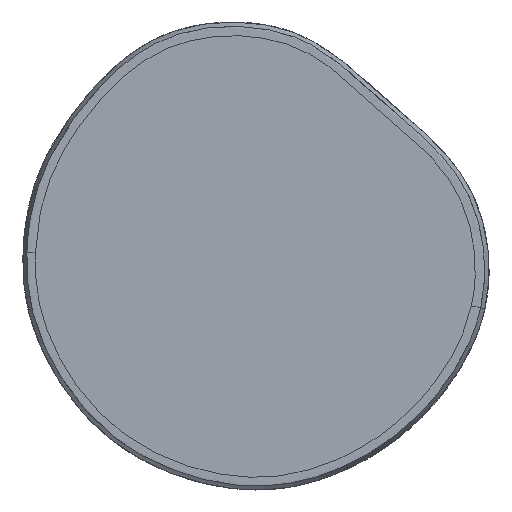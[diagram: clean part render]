
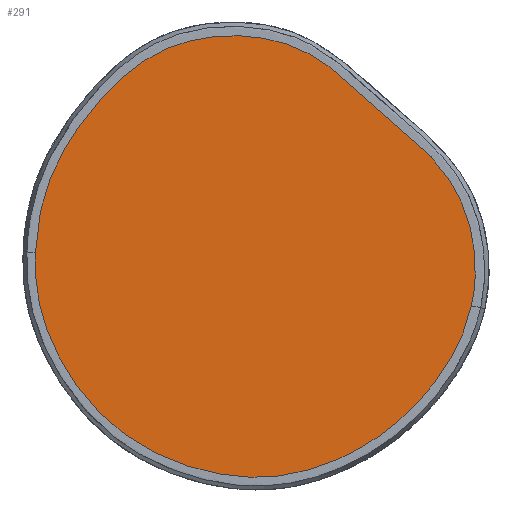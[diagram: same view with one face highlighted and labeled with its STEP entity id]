
A CAD part, top view. The second image highlights one B-rep face of the part: STEP entity #291.
In plain terms, the highlighted planar face has unit normal (0, 0, 1).
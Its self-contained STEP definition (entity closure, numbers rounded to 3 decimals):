
#291=ADVANCED_FACE('',(#2531),#36188,.T.);
#2531=FACE_OUTER_BOUND('',#4771,.T.);
#4771=EDGE_LOOP('',(#7164,#7165));
#7164=ORIENTED_EDGE('',*,*,#19176,.F.);
#7165=ORIENTED_EDGE('',*,*,#18966,.F.);
#18966=EDGE_CURVE('',#30801,#30937,#29508,.T.);
#19176=EDGE_CURVE('',#30937,#30801,#29530,.T.);
#29508=(
BOUNDED_CURVE()
B_SPLINE_CURVE(3,(#44276,#44277,#44278,#44279,#44280,#44281,#44282,#44283,
#44284,#44285,#44286,#44287,#44288,#44289,#44290,#44291,#44292,#44293,#44294,
#44295,#44296,#44297),.UNSPECIFIED.,.F.,.F.)
B_SPLINE_CURVE_WITH_KNOTS((4,3,3,3,3,3,3,4),(-2156.742,-1990.839,
-1824.936,-1659.032,-1493.129,-1327.226,
-1161.323,-995.419),.UNSPECIFIED.)
CURVE()
GEOMETRIC_REPRESENTATION_ITEM()
RATIONAL_B_SPLINE_CURVE((1.,1.,1.,1.,1.,1.,1.,1.,1.,1.,1.,1.,1.,1.,1.,1.,
1.,1.,1.,1.,1.,1.))
REPRESENTATION_ITEM('')
);
#29530=(
BOUNDED_CURVE()
B_SPLINE_CURVE(3,(#45961,#45962,#45963,#45964,#45965,#45966,#45967,#45968,
#45969,#45970,#45971,#45972,#45973,#45974,#45975,#45976,#45977,#45978,#45979),
 .UNSPECIFIED.,.F.,.F.)
B_SPLINE_CURVE_WITH_KNOTS((4,3,3,3,3,3,4),(-995.419,-829.516,
-663.613,-497.71,-331.806,-165.903,0.),
 .UNSPECIFIED.)
CURVE()
GEOMETRIC_REPRESENTATION_ITEM()
RATIONAL_B_SPLINE_CURVE((1.,1.,1.,1.,1.,1.,1.,1.,1.,1.,1.,1.,1.,1.,1.,1.,
1.,1.,1.))
REPRESENTATION_ITEM('')
);
#30801=VERTEX_POINT('',#44015);
#30937=VERTEX_POINT('',#44151);
#36188=PLANE('',#37000);
#37000=AXIS2_PLACEMENT_3D('',#40962,#38838,$);
#38838=DIRECTION('',(0.,0.,1.));
#40962=CARTESIAN_POINT('',(-1829.609,233.518,32.));
#44015=CARTESIAN_POINT('',(-1582.34,248.384,32.));
#44151=CARTESIAN_POINT('',(-522.343,118.412,32.));
#44276=CARTESIAN_POINT('',(-1582.34,248.384,32.));
#44277=CARTESIAN_POINT('',(-1579.813,316.138,32.));
#44278=CARTESIAN_POINT('',(-1567.142,382.553,32.));
#44279=CARTESIAN_POINT('',(-1538.309,447.8,32.));
#44280=CARTESIAN_POINT('',(-1509.477,513.047,32.));
#44281=CARTESIAN_POINT('',(-1464.483,577.127,32.));
#44282=CARTESIAN_POINT('',(-1412.815,632.63,32.));
#44283=CARTESIAN_POINT('',(-1361.148,688.133,32.));
#44284=CARTESIAN_POINT('',(-1302.807,735.06,32.));
#44285=CARTESIAN_POINT('',(-1222.857,758.641,32.));
#44286=CARTESIAN_POINT('',(-1142.907,782.221,32.));
#44287=CARTESIAN_POINT('',(-1041.348,782.455,32.));
#44288=CARTESIAN_POINT('',(-958.845,750.65,32.));
#44289=CARTESIAN_POINT('',(-876.341,718.845,32.));
#44290=CARTESIAN_POINT('',(-812.893,655.001,32.));
#44291=CARTESIAN_POINT('',(-744.679,594.864,32.));
#44292=CARTESIAN_POINT('',(-676.466,534.727,32.));
#44293=CARTESIAN_POINT('',(-603.488,478.298,32.));
#44294=CARTESIAN_POINT('',(-559.734,397.982,32.));
#44295=CARTESIAN_POINT('',(-515.979,317.666,32.));
#44296=CARTESIAN_POINT('',(-501.448,213.463,32.));
#44297=CARTESIAN_POINT('',(-522.343,118.412,32.));
#45961=CARTESIAN_POINT('',(-522.343,118.412,32.));
#45962=CARTESIAN_POINT('',(-543.237,23.362,32.));
#45963=CARTESIAN_POINT('',(-599.557,-62.536,32.));
#45964=CARTESIAN_POINT('',(-663.137,-127.308,32.));
#45965=CARTESIAN_POINT('',(-726.716,-192.08,32.));
#45966=CARTESIAN_POINT('',(-797.554,-235.727,32.));
#45967=CARTESIAN_POINT('',(-870.354,-264.071,32.));
#45968=CARTESIAN_POINT('',(-943.155,-292.416,32.));
#45969=CARTESIAN_POINT('',(-1017.918,-305.458,32.));
#45970=CARTESIAN_POINT('',(-1105.289,-294.652,32.));
#45971=CARTESIAN_POINT('',(-1192.66,-283.846,32.));
#45972=CARTESIAN_POINT('',(-1292.639,-249.192,32.));
#45973=CARTESIAN_POINT('',(-1372.131,-189.035,32.));
#45974=CARTESIAN_POINT('',(-1451.623,-128.877,32.));
#45975=CARTESIAN_POINT('',(-1510.628,-43.216,32.));
#45976=CARTESIAN_POINT('',(-1543.939,34.16,32.));
#45977=CARTESIAN_POINT('',(-1577.251,111.537,32.));
#45978=CARTESIAN_POINT('',(-1584.867,180.631,32.));
#45979=CARTESIAN_POINT('',(-1582.34,248.384,32.));
